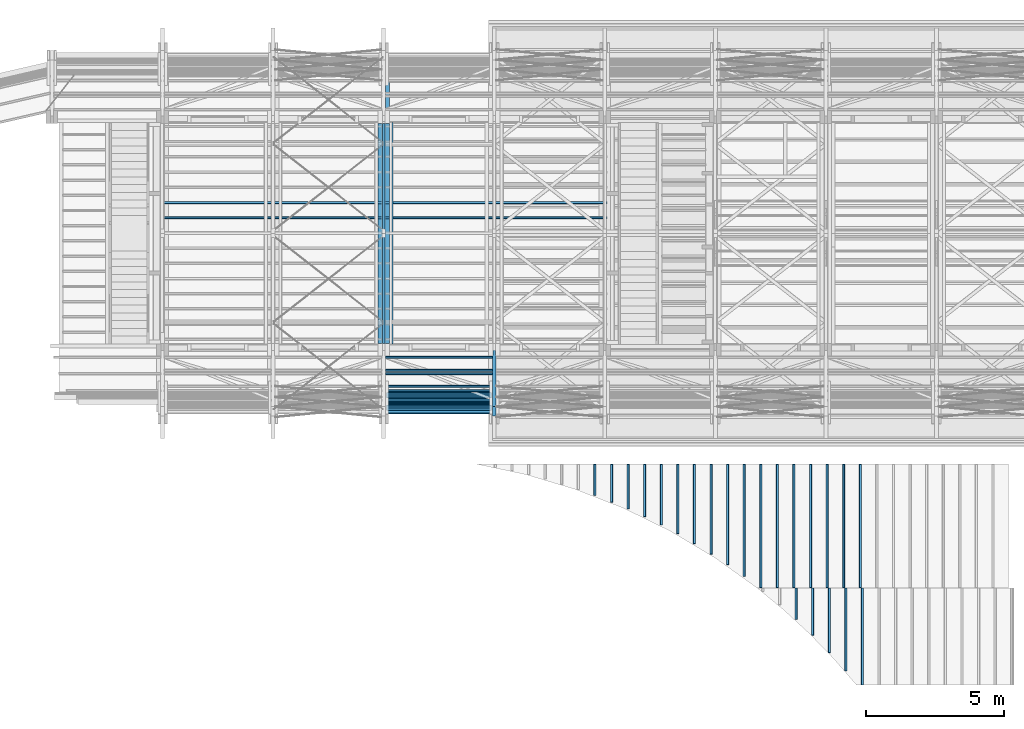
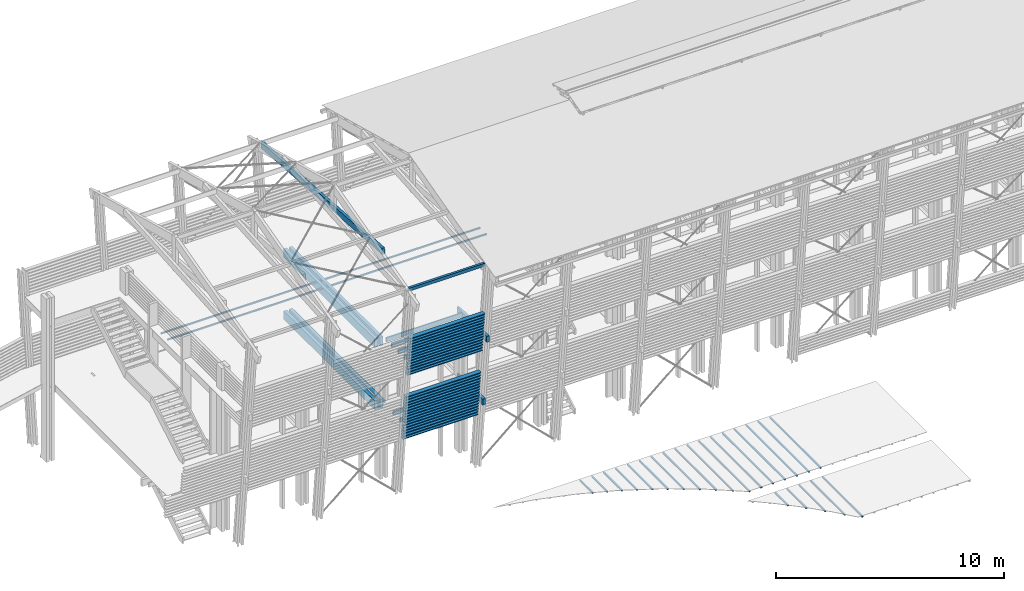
# One storey, part 7 of 48: 70 beams.
"""IFC2X3 building model written with IfcOpenShell, lengths in metres."""

from ifc_helpers import new_model, si_unit, direction, frame, origin_with_axes, place, context, subcontext, project, spatial, faceted_brep, material, element, save


model = new_model("IFC2X3")

# Units and contexts
model_context = context("Model", 3, precision=1e-06, world=origin_with_axes(), true_north=direction((0.0, 1.0, 0.0)))
body_context = subcontext(model_context, "Body", "Model", "MODEL_VIEW")
ifc_project = project(units=[si_unit("LENGTHUNIT", "METRE"), si_unit("AREAUNIT", "SQUARE_METRE"), si_unit("VOLUMEUNIT", "CUBIC_METRE"), si_unit("PLANEANGLEUNIT", "RADIAN")], contexts=[model_context])

# Site, building, storey
site_placement = place(None, origin_with_axes())
site = spatial("IfcSite", under=ifc_project, at=site_placement, CompositionType="ELEMENT")
building_placement = place(site_placement, origin_with_axes())
building = spatial("IfcBuilding", under=site, at=building_placement, Name="Building 1", CompositionType="ELEMENT")
storey_placement = place(building_placement, origin_with_axes())
storey = spatial("IfcBuildingStorey", under=building, at=storey_placement, Name="Storey 1", CompositionType="ELEMENT", Elevation=0.0)

# Beams
ifc_material_1 = material(Name="Moabi")
beam_1_placement = place(storey_placement, frame((37.3927439, -195.0606202, 3.4182623), z_axis=(0.0, 0.9945219, 0.1045285), x_axis=(-1.0, 0.0, 0.0)))
element("IfcBeam", 1, at=beam_1_placement, inside=storey, material=ifc_material_1, Name="garde corp", context=body_context, shape_type="Brep", body=[
    faceted_brep([(3.8047069, 0.02, -0.1), (3.8047069, -0.02, -0.1), (0.0, -0.02, -0.1), (0.0, 0.02, -0.1), (3.8047069, -0.02, 0.1), (0.0, -0.02, 0.1), (3.8047071, 0.02, 0.1), (0.0, 0.02, 0.1)], [[[0, 1, 2, 3]], [[1, 4, 5, 2]], [[4, 6, 7, 5]], [[6, 0, 3, 7]], [[1, 0, 6, 4]], [[7, 3, 2, 5]]]),
])
beam_2_placement = place(storey_placement, frame((37.3927437, -195.6459796, 8.9875849), z_axis=(0.0, 0.9945219, 0.1045285), x_axis=(-1.0, 0.0, 0.0)))
element("IfcBeam", 2, at=beam_2_placement, inside=storey, material=ifc_material_1, Name="garde corp", context=body_context, shape_type="Brep", body=[
    faceted_brep([(3.806, 0.02, -0.1), (3.806, -0.02, -0.1), (0.0, -0.02, -0.1), (0.0, 0.02, -0.1), (3.806, -0.02, 0.1), (0.0, -0.02, 0.1), (3.806, 0.02, 0.1), (0.0, 0.02, 0.1)], [[[0, 1, 2, 3]], [[1, 4, 5, 2]], [[4, 6, 7, 5]], [[6, 0, 3, 7]], [[1, 0, 6, 4]], [[7, 3, 2, 5]]]),
])
ifc_material_2 = material(Name="GL28h")
beam_3_placement = place(storey_placement, frame((50.8127827, -205.5464204, -0.606), z_axis=(-1.0, 0.0, 0.0), x_axis=(0.0, 1.0, 0.0)))
element("IfcBeam", 3, at=beam_3_placement, inside=storey, material=ifc_material_2, Name="carrelet", context=body_context, shape_type="Brep", body=[
    faceted_brep([(3.5, -0.035, -0.035), (3.5, -0.035, 0.035), (0.0, -0.035, 0.035), (0.0, -0.035, -0.035), (3.5, 0.035, 0.035), (0.0, 0.035, 0.035), (3.5, 0.035, -0.035), (0.0, 0.035, -0.035)], [[[0, 1, 2, 3]], [[1, 4, 5, 2]], [[4, 6, 7, 5]], [[6, 0, 3, 7]], [[1, 0, 6, 4]], [[7, 3, 2, 5]]]),
])
beam_4_placement = place(storey_placement, frame((25.4197437, -188.0946515, 7.494), z_axis=(0.0, 0.0, 1.0), x_axis=(1.0, 0.0, 0.0)))
element("IfcBeam", 4, at=beam_4_placement, inside=storey, material=ifc_material_2, Name="Poutre - Bois de construction", context=body_context, shape_type="Brep", body=[
    faceted_brep([(16.14, -0.035, -0.035), (16.14, -0.035, 0.035), (0.0, -0.035, 0.035), (0.0, -0.035, -0.035), (16.14, 0.035, 0.035), (0.0, 0.035, 0.035), (16.14, 0.035, -0.035), (0.0, 0.035, -0.035)], [[[0, 1, 2, 3]], [[1, 4, 5, 2]], [[4, 6, 7, 5]], [[6, 0, 3, 7]], [[1, 0, 6, 4]], [[7, 3, 2, 5]]]),
])
beam_5_placement = place(storey_placement, frame((44.7347007, -200.4366677, -0.106), z_axis=(-1.0, 0.0, 0.0), x_axis=(0.0, 1.0, 0.0)))
element("IfcBeam", 5, at=beam_5_placement, inside=storey, material=ifc_material_2, Name="carrelet", context=body_context, shape_type="Brep", body=[
    faceted_brep([(2.8692473, -0.035, -0.035), (2.8692473, -0.035, 0.035), (0.0, -0.035, 0.035), (0.0, -0.035, -0.035), (2.8692473, 0.035, 0.035), (0.0, 0.035, 0.035), (2.8692473, 0.035, -0.035), (0.0, 0.035, -0.035)], [[[0, 1, 2, 3]], [[1, 4, 5, 2]], [[4, 6, 7, 5]], [[6, 0, 3, 7]], [[1, 0, 6, 4]], [[7, 3, 2, 5]]]),
])
beam_6_placement = place(storey_placement, frame((44.1347007, -200.073994, -0.106), z_axis=(-1.0, 0.0, 0.0), x_axis=(0.0, 1.0, 0.0)))
element("IfcBeam", 6, at=beam_6_placement, inside=storey, material=ifc_material_2, Name="carrelet", context=body_context, shape_type="Brep", body=[
    faceted_brep([(2.5065736, -0.035, -0.035), (2.5065736, -0.035, 0.035), (0.0, -0.035, 0.035), (0.0, -0.035, -0.035), (2.5065736, 0.035, 0.035), (0.0, 0.035, 0.035), (2.5065736, 0.035, -0.035), (0.0, 0.035, -0.035)], [[[0, 1, 2, 3]], [[1, 4, 5, 2]], [[4, 6, 7, 5]], [[6, 0, 3, 7]], [[1, 0, 6, 4]], [[7, 3, 2, 5]]]),
])
beam_7_placement = place(storey_placement, frame((49.5347007, -202.0254204, -0.106), z_axis=(-1.0, 0.0, 0.0), x_axis=(0.0, 1.0, 0.0)))
element("IfcBeam", 7, at=beam_7_placement, inside=storey, material=ifc_material_2, Name="carrelet", context=body_context, shape_type="Brep", body=[
    faceted_brep([(4.458, -0.035, -0.035), (4.458, -0.035, 0.035), (0.0, -0.035, 0.035), (0.0, -0.035, -0.035), (4.458, 0.035, 0.035), (0.0, 0.035, 0.035), (4.458, 0.035, -0.035), (0.0, 0.035, -0.035)], [[[0, 1, 2, 3]], [[1, 4, 5, 2]], [[4, 6, 7, 5]], [[6, 0, 3, 7]], [[1, 0, 6, 4]], [[7, 3, 2, 5]]]),
])
beam_8_placement = place(storey_placement, frame((33.5597437, -193.6846515, 7.699), z_axis=(0.0, 0.0, 1.0), x_axis=(1.0, 0.0, 0.0)))
element("IfcBeam", 8, at=beam_8_placement, inside=storey, material=ifc_material_2, Name="Solive", context=body_context, shape_type="Brep", body=[
    faceted_brep([(3.86, 0.035, 0.11), (3.86, 0.035, -0.11), (0.0, 0.035, -0.11), (0.0, 0.035, 0.11), (3.86, -0.035, -0.11), (0.0, -0.035, -0.11), (3.86, -0.035, 0.11), (0.0, -0.035, 0.11)], [[[0, 1, 2, 3]], [[1, 4, 5, 2]], [[4, 6, 7, 5]], [[6, 0, 3, 7]], [[1, 0, 6, 4]], [[7, 3, 2, 5]]]),
])
beam_9_placement = place(storey_placement, frame((37.3927439, -195.0773447, 3.5773858), z_axis=(0.0, 0.9945219, 0.1045285), x_axis=(-1.0, 0.0, 0.0)))
element("IfcBeam", 9, at=beam_9_placement, inside=storey, material=ifc_material_1, Name="garde corp", context=body_context, shape_type="Brep", body=[
    faceted_brep([(3.8047071, 0.02, -0.1), (3.8047071, -0.02, -0.1), (0.0, -0.02, -0.1), (0.0, 0.02, -0.1), (3.8047071, -0.02, 0.1), (0.0, -0.02, 0.1), (3.8047071, 0.02, 0.1), (0.0, 0.02, 0.1)], [[[0, 1, 2, 3]], [[1, 4, 5, 2]], [[4, 6, 7, 5]], [[6, 0, 3, 7]], [[1, 0, 6, 4]], [[7, 3, 2, 5]]]),
])
beam_10_placement = place(storey_placement, frame((42.3347007, -199.1756791, -0.106), z_axis=(-1.0, 0.0, 0.0), x_axis=(0.0, 1.0, 0.0)))
element("IfcBeam", 10, at=beam_10_placement, inside=storey, material=ifc_material_2, Name="carrelet", context=body_context, shape_type="Brep", body=[
    faceted_brep([(1.6082587, -0.035, -0.035), (1.6082587, -0.035, 0.035), (0.0, -0.035, 0.035), (0.0, -0.035, -0.035), (1.6082587, 0.035, 0.035), (0.0, 0.035, 0.035), (1.6082587, 0.035, -0.035), (0.0, 0.035, -0.035)], [[[0, 1, 2, 3]], [[1, 4, 5, 2]], [[4, 6, 7, 5]], [[6, 0, 3, 7]], [[1, 0, 6, 4]], [[7, 3, 2, 5]]]),
])
beam_11_placement = place(storey_placement, frame((41.1347007, -198.6902542, -0.106), z_axis=(-1.0, 0.0, 0.0), x_axis=(0.0, 1.0, 0.0)))
element("IfcBeam", 11, at=beam_11_placement, inside=storey, material=ifc_material_2, Name="carrelet", context=body_context, shape_type="Brep", body=[
    faceted_brep([(1.1228339, -0.035, -0.035), (1.1228339, -0.035, 0.035), (0.0, -0.035, 0.035), (0.0, -0.035, -0.035), (1.1228339, 0.035, 0.035), (0.0, 0.035, 0.035), (1.1228339, 0.035, -0.035), (0.0, 0.035, -0.035)], [[[0, 1, 2, 3]], [[1, 4, 5, 2]], [[4, 6, 7, 5]], [[6, 0, 3, 7]], [[1, 0, 6, 4]], [[7, 3, 2, 5]]]),
])
for number, where, z_axis, x_axis in (
    (12, (47.7347007, -202.0254204, -0.106), (-1.0, 0.0, 0.0), (0.0, 1.0, 0.0)),
    (13, (48.9347007, -202.0254204, -0.106), (-1.0, 0.0, 0.0), (0.0, 1.0, 0.0)),
    (14, (48.3347007, -202.0254204, -0.106), (-1.0, 0.0, 0.0), (0.0, 1.0, 0.0)),
    (15, (50.7347007, -202.0254204, -0.106), (-1.0, 0.0, 0.0), (0.0, 1.0, 0.0)),
    (16, (50.1347007, -202.0254204, -0.106), (-1.0, 0.0, 0.0), (0.0, 1.0, 0.0)),
):
    element("IfcBeam", number, at=place(storey_placement, frame(where, z_axis=z_axis, x_axis=x_axis)), inside=storey, material=ifc_material_2, Name="carrelet", context=body_context, shape_type="Brep", body=[
        faceted_brep([(4.458, -0.035, -0.035), (4.458, -0.035, 0.035), (0.0, -0.035, 0.035), (0.0, -0.035, -0.035), (4.458, 0.035, 0.035), (0.0, 0.035, 0.035), (4.458, 0.035, -0.035), (0.0, 0.035, -0.035)], [[[0, 1, 2, 3]], [[1, 4, 5, 2]], [[4, 6, 7, 5]], [[6, 0, 3, 7]], [[1, 0, 6, 4]], [[7, 3, 2, 5]]]),
    ])
beam_12_placement = place(storey_placement, frame((42.9347007, -199.4546588, -0.106), z_axis=(-1.0, 0.0, 0.0), x_axis=(0.0, 1.0, 0.0)))
element("IfcBeam", 17, at=beam_12_placement, inside=storey, material=ifc_material_2, Name="carrelet", context=body_context, shape_type="Brep", body=[
    faceted_brep([(1.8872385, -0.035, -0.035), (1.8872385, -0.035, 0.035), (0.0, -0.035, 0.035), (0.0, -0.035, -0.035), (1.8872385, 0.035, 0.035), (0.0, 0.035, 0.035), (1.8872385, 0.035, -0.035), (0.0, 0.035, -0.035)], [[[0, 1, 2, 3]], [[1, 4, 5, 2]], [[4, 6, 7, 5]], [[6, 0, 3, 7]], [[1, 0, 6, 4]], [[7, 3, 2, 5]]]),
])
beam_13_placement = place(storey_placement, frame((46.5347007, -201.619542, -0.106), z_axis=(-1.0, 0.0, 0.0), x_axis=(0.0, 1.0, 0.0)))
element("IfcBeam", 18, at=beam_13_placement, inside=storey, material=ifc_material_2, Name="carrelet", context=body_context, shape_type="Brep", body=[
    faceted_brep([(4.0521216, -0.035, -0.035), (4.0521216, -0.035, 0.035), (0.0, -0.035, 0.035), (0.0, -0.035, -0.035), (4.0521216, 0.035, 0.035), (0.0, 0.035, 0.035), (4.0521216, 0.035, -0.035), (0.0, 0.035, -0.035)], [[[0, 1, 2, 3]], [[1, 4, 5, 2]], [[4, 6, 7, 5]], [[6, 0, 3, 7]], [[1, 0, 6, 4]], [[7, 3, 2, 5]]]),
])
beam_14_placement = place(storey_placement, frame((45.3347007, -200.8105006, -0.106), z_axis=(-1.0, 0.0, 0.0), x_axis=(0.0, 1.0, 0.0)))
element("IfcBeam", 19, at=beam_14_placement, inside=storey, material=ifc_material_2, Name="carrelet", context=body_context, shape_type="Brep", body=[
    faceted_brep([(3.2430802, -0.035, -0.035), (3.2430802, -0.035, 0.035), (0.0, -0.035, 0.035), (0.0, -0.035, -0.035), (3.2430802, 0.035, 0.035), (0.0, 0.035, 0.035), (3.2430802, 0.035, -0.035), (0.0, 0.035, -0.035)], [[[0, 1, 2, 3]], [[1, 4, 5, 2]], [[4, 6, 7, 5]], [[6, 0, 3, 7]], [[1, 0, 6, 4]], [[7, 3, 2, 5]]]),
])
beam_15_placement = place(storey_placement, frame((47.1347007, -202.0254204, -0.106), z_axis=(-1.0, 0.0, 0.0), x_axis=(0.0, 1.0, 0.0)))
element("IfcBeam", 20, at=beam_15_placement, inside=storey, material=ifc_material_2, Name="carrelet", context=body_context, shape_type="Brep", body=[
    faceted_brep([(4.458, -0.035, -0.035), (4.458, -0.035, 0.035), (0.0, -0.035, 0.035), (0.0, -0.035, -0.035), (4.458, 0.035, 0.035), (0.0, 0.035, 0.035), (4.458, 0.035, -0.035), (0.0, 0.035, -0.035)], [[[0, 1, 2, 3]], [[1, 4, 5, 2]], [[4, 6, 7, 5]], [[6, 0, 3, 7]], [[1, 0, 6, 4]], [[7, 3, 2, 5]]]),
])
beam_16_placement = place(storey_placement, frame((33.5597437, -194.1646515, 7.699), z_axis=(0.0, 0.0, 1.0), x_axis=(1.0, 0.0, 0.0)))
element("IfcBeam", 21, at=beam_16_placement, inside=storey, material=ifc_material_2, Name="Solive", context=body_context, shape_type="Brep", body=[
    faceted_brep([(3.86, 0.035, 0.11), (3.86, 0.035, -0.11), (0.0, 0.035, -0.11), (0.0, 0.035, 0.11), (3.86, -0.035, -0.11), (0.0, -0.035, -0.11), (3.86, -0.035, 0.11), (0.0, -0.035, 0.11)], [[[0, 1, 2, 3]], [[1, 4, 5, 2]], [[4, 6, 7, 5]], [[6, 0, 3, 7]], [[1, 0, 6, 4]], [[7, 3, 2, 5]]]),
])
beam_17_placement = place(storey_placement, frame((49.0127827, -203.7475608, -0.606), z_axis=(-1.0, 0.0, 0.0), x_axis=(0.0, 1.0, 0.0)))
element("IfcBeam", 22, at=beam_17_placement, inside=storey, material=ifc_material_2, Name="carrelet", context=body_context, shape_type="Brep", body=[
    faceted_brep([(1.7011404, -0.035, -0.035), (1.7011404, -0.035, 0.035), (0.0, -0.035, 0.035), (0.0, -0.035, -0.035), (1.7011404, 0.035, 0.035), (0.0, 0.035, 0.035), (1.7011404, 0.035, -0.035), (0.0, 0.035, -0.035)], [[[0, 1, 2, 3]], [[1, 4, 5, 2]], [[4, 6, 7, 5]], [[6, 0, 3, 7]], [[1, 0, 6, 4]], [[7, 3, 2, 5]]]),
])
beam_18_placement = place(storey_placement, frame((45.9347007, -201.1899131, -0.106), z_axis=(-1.0, 0.0, 0.0), x_axis=(0.0, 1.0, 0.0)))
element("IfcBeam", 23, at=beam_18_placement, inside=storey, material=ifc_material_2, Name="carrelet", context=body_context, shape_type="Brep", body=[
    faceted_brep([(3.6224927, -0.035, -0.035), (3.6224927, -0.035, 0.035), (0.0, -0.035, 0.035), (0.0, -0.035, -0.035), (3.6224927, 0.035, 0.035), (0.0, 0.035, 0.035), (3.6224927, 0.035, -0.035), (0.0, 0.035, -0.035)], [[[0, 1, 2, 3]], [[1, 4, 5, 2]], [[4, 6, 7, 5]], [[6, 0, 3, 7]], [[1, 0, 6, 4]], [[7, 3, 2, 5]]]),
])
beam_19_placement = place(storey_placement, frame((48.4127827, -203.1735512, -0.606), z_axis=(-1.0, 0.0, 0.0), x_axis=(0.0, 1.0, 0.0)))
element("IfcBeam", 24, at=beam_19_placement, inside=storey, material=ifc_material_2, Name="carrelet", context=body_context, shape_type="Brep", body=[
    faceted_brep([(1.1271308, -0.035, -0.035), (1.1271308, -0.035, 0.035), (0.0, -0.035, 0.035), (0.0, -0.035, -0.035), (1.1271308, 0.035, 0.035), (0.0, 0.035, 0.035), (1.1271308, 0.035, -0.035), (0.0, 0.035, -0.035)], [[[0, 1, 2, 3]], [[1, 4, 5, 2]], [[4, 6, 7, 5]], [[6, 0, 3, 7]], [[1, 0, 6, 4]], [[7, 3, 2, 5]]]),
])
beam_20_placement = place(storey_placement, frame((43.5347007, -199.755957, -0.106), z_axis=(-1.0, 0.0, 0.0), x_axis=(0.0, 1.0, 0.0)))
element("IfcBeam", 25, at=beam_20_placement, inside=storey, material=ifc_material_2, Name="carrelet", context=body_context, shape_type="Brep", body=[
    faceted_brep([(2.1885367, -0.035, -0.035), (2.1885367, -0.035, 0.035), (0.0, -0.035, 0.035), (0.0, -0.035, -0.035), (2.1885367, 0.035, 0.035), (0.0, 0.035, 0.035), (2.1885367, 0.035, -0.035), (0.0, 0.035, -0.035)], [[[0, 1, 2, 3]], [[1, 4, 5, 2]], [[4, 6, 7, 5]], [[6, 0, 3, 7]], [[1, 0, 6, 4]], [[7, 3, 2, 5]]]),
])
beam_21_placement = place(storey_placement, frame((50.2127827, -205.0352656, -0.606), z_axis=(-1.0, 0.0, 0.0), x_axis=(0.0, 1.0, 0.0)))
element("IfcBeam", 26, at=beam_21_placement, inside=storey, material=ifc_material_2, Name="carrelet", context=body_context, shape_type="Brep", body=[
    faceted_brep([(2.9888452, -0.035, -0.035), (2.9888452, -0.035, 0.035), (0.0, -0.035, 0.035), (0.0, -0.035, -0.035), (2.9888452, 0.035, 0.035), (0.0, 0.035, 0.035), (2.9888452, 0.035, -0.035), (0.0, 0.035, -0.035)], [[[0, 1, 2, 3]], [[1, 4, 5, 2]], [[4, 6, 7, 5]], [[6, 0, 3, 7]], [[1, 0, 6, 4]], [[7, 3, 2, 5]]]),
])
beam_22_placement = place(storey_placement, frame((49.6127827, -204.3749041, -0.606), z_axis=(-1.0, 0.0, 0.0), x_axis=(0.0, 1.0, 0.0)))
element("IfcBeam", 27, at=beam_22_placement, inside=storey, material=ifc_material_2, Name="carrelet", context=body_context, shape_type="Brep", body=[
    faceted_brep([(2.3284838, -0.035, -0.035), (2.3284838, -0.035, 0.035), (0.0, -0.035, 0.035), (0.0, -0.035, -0.035), (2.3284838, 0.035, 0.035), (0.0, 0.035, 0.035), (2.3284838, 0.035, -0.035), (0.0, 0.035, -0.035)], [[[0, 1, 2, 3]], [[1, 4, 5, 2]], [[4, 6, 7, 5]], [[6, 0, 3, 7]], [[1, 0, 6, 4]], [[7, 3, 2, 5]]]),
])
beam_23_placement = place(storey_placement, frame((41.7347007, -198.9301768, -0.106), z_axis=(-1.0, 0.0, 0.0), x_axis=(0.0, 1.0, 0.0)))
element("IfcBeam", 28, at=beam_23_placement, inside=storey, material=ifc_material_2, Name="carrelet", context=body_context, shape_type="Brep", body=[
    faceted_brep([(1.3627565, -0.035, -0.035), (1.3627565, -0.035, 0.035), (0.0, -0.035, 0.035), (0.0, -0.035, -0.035), (1.3627565, 0.035, 0.035), (0.0, 0.035, 0.035), (1.3627565, 0.035, -0.035), (0.0, 0.035, -0.035)], [[[0, 1, 2, 3]], [[1, 4, 5, 2]], [[4, 6, 7, 5]], [[6, 0, 3, 7]], [[1, 0, 6, 4]], [[7, 3, 2, 5]]]),
])
beam_24_placement = place(storey_placement, frame((37.3927441, -195.5121831, 7.7145968), z_axis=(0.0, 0.9945219, 0.1045285), x_axis=(-1.0, 0.0, 0.0)))
element("IfcBeam", 29, at=beam_24_placement, inside=storey, material=ifc_material_1, Name="garde corp", context=body_context, shape_type="Brep", body=[
    faceted_brep([(3.806, 0.02, -0.1), (3.806, -0.02, -0.1), (0.0, -0.02, -0.1), (0.0, 0.02, -0.1), (3.806, -0.02, 0.1), (0.0, -0.02, 0.1), (3.806, 0.02, 0.1), (0.0, 0.02, 0.1)], [[[0, 1, 2, 3]], [[1, 4, 5, 2]], [[4, 6, 7, 5]], [[6, 0, 3, 7]], [[1, 0, 6, 4]], [[7, 3, 2, 5]]]),
])
beam_25_placement = place(storey_placement, frame((25.4197437, -188.6446515, 7.494), z_axis=(0.0, 0.0, 1.0), x_axis=(1.0, 0.0, 0.0)))
element("IfcBeam", 30, at=beam_25_placement, inside=storey, material=ifc_material_2, Name="Poutre - Bois de construction", context=body_context, shape_type="Brep", body=[
    faceted_brep([(16.14, -0.035, -0.035), (16.14, -0.035, 0.035), (0.0, -0.035, 0.035), (0.0, -0.035, -0.035), (16.14, 0.035, 0.035), (0.0, 0.035, 0.035), (16.14, 0.035, -0.035), (0.0, 0.035, -0.035)], [[[0, 1, 2, 3]], [[1, 4, 5, 2]], [[4, 6, 7, 5]], [[6, 0, 3, 7]], [[1, 0, 6, 4]], [[7, 3, 2, 5]]]),
])
beam_26_placement = place(storey_placement, frame((37.3927439, -195.1107938, 3.8956328), z_axis=(0.0, 0.9945219, 0.1045285), x_axis=(-1.0, 0.0, 0.0)))
element("IfcBeam", 31, at=beam_26_placement, inside=storey, material=ifc_material_1, Name="garde corp", context=body_context, shape_type="Brep", body=[
    faceted_brep([(3.8047069, 0.02, -0.1), (3.8047071, -0.02, -0.1), (0.0, -0.02, -0.1), (0.0, 0.02, -0.1), (3.8047071, -0.02, 0.1), (0.0, -0.02, 0.1), (3.8047071, 0.02, 0.1), (0.0, 0.02, 0.1)], [[[0, 1, 2, 3]], [[1, 4, 5, 2]], [[4, 6, 7, 5]], [[6, 0, 3, 7]], [[1, 0, 6, 4]], [[7, 3, 2, 5]]]),
])
beam_27_placement = place(storey_placement, frame((33.6297437, -182.7509358, 11.4619485), z_axis=(0.0, 0.070184, 0.9975341), x_axis=(0.0, -0.9975341, 0.070184)))
element("IfcBeam", 32, at=beam_27_placement, inside=storey, material=ifc_material_2, Name="Entrait", context=body_context, shape_type="Brep", body=[
    faceted_brep([(0.0, 0.07, 0.16), (0.0110373, 0.07, -0.16), (0.0110373, -0.07, -0.16), (0.0, -0.07, 0.16), (10.6243711, 0.07, -0.16), (10.6243711, -0.07, -0.16), (10.6243711, 0.07, 0.16), (10.6243711, -0.07, 0.16)], [[[0, 1, 2, 3]], [[2, 1, 4, 5]], [[1, 0, 6, 4]], [[5, 4, 6, 7]], [[3, 2, 5, 7]], [[0, 3, 7, 6]]]),
])
beam_28_placement = place(storey_placement, frame((37.3927439, -195.2111412, 4.8503738), z_axis=(0.0, 0.9945219, 0.1045285), x_axis=(-1.0, 0.0, 0.0)))
element("IfcBeam", 33, at=beam_28_placement, inside=storey, material=ifc_material_1, Name="garde corp", context=body_context, shape_type="Brep", body=[
    faceted_brep([(3.8048055, 0.02, -0.1), (3.8048055, -0.02, -0.1), (0.0, -0.02, -0.1), (0.0, 0.02, -0.1), (3.8048055, -0.02, 0.1), (0.0, -0.02, 0.1), (3.8048055, 0.02, 0.1), (0.0, 0.02, 0.1)], [[[0, 1, 2, 3]], [[1, 4, 5, 2]], [[4, 6, 7, 5]], [[6, 0, 3, 7]], [[1, 0, 6, 4]], [[7, 3, 2, 5]]]),
])
for number, where, z_axis, x_axis, name in (
    (34, (37.3927437, -195.5456322, 8.0328439), (0.0, 0.9945219, 0.1045285), (-1.0, 0.0, 0.0), "garde corp"),
    (35, (37.3927441, -195.629255, 8.8284614), (0.0, 0.9945219, 0.1045285), (-1.0, 0.0, 0.0), "garde corp"),
    (36, (37.3927441, -195.4954586, 7.5554733), (0.0, 0.9945219, 0.1045285), (-1.0, 0.0, 0.0), "garde corp"),
    (37, (37.3927441, -195.4452849, 7.0781028), (0.0, 0.9945219, 0.1045285), (-1.0, 0.0, 0.0), "garde corp"),
    (38, (37.3927441, -195.5623568, 8.1919674), (0.0, 0.9945219, 0.1045285), (-1.0, 0.0, 0.0), "garde corp"),
    (39, (37.3927441, -195.478734, 7.3963498), (0.0, 0.9945219, 0.1045285), (-1.0, 0.0, 0.0), "garde corp"),
    (40, (37.3927437, -195.6125305, 8.6693379), (0.0, 0.9945219, 0.1045285), (-1.0, 0.0, 0.0), "garde corp"),
):
    element("IfcBeam", number, at=place(storey_placement, frame(where, z_axis=z_axis, x_axis=x_axis)), inside=storey, material=ifc_material_1, Name=name, context=body_context, shape_type="Brep", body=[
        faceted_brep([(3.806, 0.02, -0.1), (3.806, -0.02, -0.1), (0.0, -0.02, -0.1), (0.0, 0.02, -0.1), (3.806, -0.02, 0.1), (0.0, -0.02, 0.1), (3.806, 0.02, 0.1), (0.0, 0.02, 0.1)], [[[0, 1, 2, 3]], [[1, 4, 5, 2]], [[4, 6, 7, 5]], [[6, 0, 3, 7]], [[1, 0, 6, 4]], [[7, 3, 2, 5]]]),
    ])
for number, where, z_axis, x_axis, name in (
    (41, (37.3927439, -195.177692, 4.5321268), (0.0, 0.9945219, 0.1045285), (-1.0, 0.0, 0.0), "garde corp"),
    (42, (37.3927439, -195.2278657, 5.0094973), (0.0, 0.9945219, 0.1045285), (-1.0, 0.0, 0.0), "garde corp"),
):
    element("IfcBeam", number, at=place(storey_placement, frame(where, z_axis=z_axis, x_axis=x_axis)), inside=storey, material=ifc_material_1, Name=name, context=body_context, shape_type="Brep", body=[
        faceted_brep([(3.8047069, 0.02, -0.1), (3.8047071, -0.02, -0.1), (0.0, -0.02, -0.1), (0.0, 0.02, -0.1), (3.8047069, -0.02, 0.1), (0.0, -0.02, 0.1), (3.8047071, 0.02, 0.1), (0.0, 0.02, 0.1)], [[[0, 1, 2, 3]], [[1, 4, 5, 2]], [[4, 6, 7, 5]], [[6, 0, 3, 7]], [[1, 0, 6, 4]], [[7, 3, 2, 5]]]),
    ])
beam_29_placement = place(storey_placement, frame((37.3927441, -195.5958059, 8.5102144), z_axis=(0.0, 0.9945219, 0.1045285), x_axis=(-1.0, 0.0, 0.0)))
element("IfcBeam", 43, at=beam_29_placement, inside=storey, material=ifc_material_1, Name="garde corp", context=body_context, shape_type="Brep", body=[
    faceted_brep([(3.806, 0.02, -0.1), (3.806, -0.02, -0.1), (0.0, -0.02, -0.1), (0.0, 0.02, -0.1), (3.806, -0.02, 0.1), (0.0, -0.02, 0.1), (3.806, 0.02, 0.1), (0.0, 0.02, 0.1)], [[[0, 1, 2, 3]], [[1, 4, 5, 2]], [[4, 6, 7, 5]], [[6, 0, 3, 7]], [[1, 0, 6, 4]], [[7, 3, 2, 5]]]),
])
beam_30_placement = place(storey_placement, frame((37.3927439, -195.1609675, 4.3730033), z_axis=(0.0, 0.9945219, 0.1045285), x_axis=(-1.0, 0.0, 0.0)))
element("IfcBeam", 44, at=beam_30_placement, inside=storey, material=ifc_material_1, Name="garde corp", context=body_context, shape_type="Brep", body=[
    faceted_brep([(3.8048051, 0.02, -0.1), (3.8048051, -0.02, -0.1), (0.0, -0.02, -0.1), (0.0, 0.02, -0.1), (3.8048051, -0.02, 0.1), (0.0, -0.02, 0.1), (3.8048051, 0.02, 0.1), (0.0, 0.02, 0.1)], [[[0, 1, 2, 3]], [[1, 4, 5, 2]], [[4, 6, 7, 5]], [[6, 0, 3, 7]], [[1, 0, 6, 4]], [[7, 3, 2, 5]]]),
])
beam_31_placement = place(storey_placement, frame((33.5597437, -194.2816702, 4.139), z_axis=(0.0, 0.0, 1.0), x_axis=(1.0, 0.0, 0.0)))
element("IfcBeam", 45, at=beam_31_placement, inside=storey, material=ifc_material_2, Name="Solive", context=body_context, shape_type="Brep", body=[
    faceted_brep([(3.86, 0.035, 0.11), (3.86, 0.035, -0.11), (0.0, 0.035, -0.11), (0.0, 0.035, 0.11), (3.86, -0.035, -0.11), (0.0, -0.035, -0.11), (3.86, -0.035, 0.11), (0.0, -0.035, 0.11)], [[[0, 1, 2, 3]], [[1, 4, 5, 2]], [[4, 6, 7, 5]], [[6, 0, 3, 7]], [[1, 0, 6, 4]], [[7, 3, 2, 5]]]),
])
for number, where, z_axis, x_axis, name in (
    (46, (37.3927441, -195.4285604, 6.9189793), (0.0, 0.9945219, 0.1045285), (-1.0, 0.0, 0.0), "garde corp"),
    (47, (37.3927441, -195.5790813, 8.3510909), (0.0, 0.9945219, 0.1045285), (-1.0, 0.0, 0.0), "garde corp"),
):
    element("IfcBeam", number, at=place(storey_placement, frame(where, z_axis=z_axis, x_axis=x_axis)), inside=storey, material=ifc_material_1, Name=name, context=body_context, shape_type="Brep", body=[
        faceted_brep([(3.806, 0.02, -0.1), (3.806, -0.02, -0.1), (0.0, -0.02, -0.1), (0.0, 0.02, -0.1), (3.806, -0.02, 0.1), (0.0, -0.02, 0.1), (3.806, 0.02, 0.1), (0.0, 0.02, 0.1)], [[[0, 1, 2, 3]], [[1, 4, 5, 2]], [[4, 6, 7, 5]], [[6, 0, 3, 7]], [[1, 0, 6, 4]], [[7, 3, 2, 5]]]),
    ])
beam_32_placement = place(storey_placement, frame((37.3927439, -195.1442429, 4.2138798), z_axis=(0.0, 0.9945219, 0.1045285), x_axis=(-1.0, 0.0, 0.0)))
element("IfcBeam", 48, at=beam_32_placement, inside=storey, material=ifc_material_1, Name="garde corp", context=body_context, shape_type="Brep", body=[
    faceted_brep([(3.8048051, 0.02, -0.1), (3.8048051, -0.02, -0.1), (0.0, -0.02, -0.1), (0.0, 0.02, -0.1), (3.8048051, -0.02, 0.1), (0.0, -0.02, 0.1), (3.8048051, 0.02, 0.1), (0.0, 0.02, 0.1)], [[[0, 1, 2, 3]], [[1, 4, 5, 2]], [[4, 6, 7, 5]], [[6, 0, 3, 7]], [[1, 0, 6, 4]], [[7, 3, 2, 5]]]),
])
beam_33_placement = place(storey_placement, frame((37.3927439, -195.2613148, 5.3277443), z_axis=(0.0, 0.9945219, 0.1045285), x_axis=(-1.0, 0.0, 0.0)))
element("IfcBeam", 49, at=beam_33_placement, inside=storey, material=ifc_material_1, Name="garde corp", context=body_context, shape_type="Brep", body=[
    faceted_brep([(3.8048055, 0.02, -0.1), (3.8048055, -0.02, -0.1), (0.0, -0.02, -0.1), (0.0, 0.02, -0.1), (3.8048055, -0.02, 0.1), (0.0, -0.02, 0.1), (3.8048055, 0.02, 0.1), (0.0, 0.02, 0.1)], [[[0, 1, 2, 3]], [[1, 4, 5, 2]], [[4, 6, 7, 5]], [[6, 0, 3, 7]], [[1, 0, 6, 4]], [[7, 3, 2, 5]]]),
])
for number, where, z_axis, x_axis, name in (
    (50, (37.3927439, -195.0438956, 3.2591388), (0.0, 0.9945219, 0.1045285), (-1.0, 0.0, 0.0), "garde corp"),
    (51, (37.3927439, -195.1275184, 4.0547563), (0.0, 0.9945219, 0.1045285), (-1.0, 0.0, 0.0), "garde corp"),
):
    element("IfcBeam", number, at=place(storey_placement, frame(where, z_axis=z_axis, x_axis=x_axis)), inside=storey, material=ifc_material_1, Name=name, context=body_context, shape_type="Brep", body=[
        faceted_brep([(3.8048051, 0.02, -0.1), (3.8048051, -0.02, -0.1), (0.0, -0.02, -0.1), (0.0, 0.02, -0.1), (3.8048051, -0.02, 0.1), (0.0, -0.02, 0.1), (3.8048051, 0.02, 0.1), (0.0, 0.02, 0.1)], [[[0, 1, 2, 3]], [[1, 4, 5, 2]], [[4, 6, 7, 5]], [[6, 0, 3, 7]], [[1, 0, 6, 4]], [[7, 3, 2, 5]]]),
    ])
beam_34_placement = place(storey_placement, frame((37.3927439, -195.2780394, 5.4868678), z_axis=(0.0, 0.9945219, 0.1045285), x_axis=(-1.0, 0.0, 0.0)))
element("IfcBeam", 52, at=beam_34_placement, inside=storey, material=ifc_material_1, Name="garde corp", context=body_context, shape_type="Brep", body=[
    faceted_brep([(3.8047069, 0.02, -0.1), (3.8047069, -0.02, -0.1), (0.0, -0.02, -0.1), (0.0, 0.02, -0.1), (3.8047069, -0.02, 0.1), (0.0, -0.02, 0.1), (3.8047071, 0.02, 0.1), (0.0, 0.02, 0.1)], [[[0, 1, 2, 3]], [[1, 4, 5, 2]], [[4, 6, 7, 5]], [[6, 0, 3, 7]], [[1, 0, 6, 4]], [[7, 3, 2, 5]]]),
])
beam_35_placement = place(storey_placement, frame((37.3927439, -195.2947639, 5.6459913), z_axis=(0.0, 0.9945219, 0.1045285), x_axis=(-1.0, 0.0, 0.0)))
element("IfcBeam", 53, at=beam_35_placement, inside=storey, material=ifc_material_1, Name="garde corp", context=body_context, shape_type="Brep", body=[
    faceted_brep([(3.8048055, 0.02, -0.1), (3.8048055, -0.02, -0.1), (0.0, -0.02, -0.1), (0.0, 0.02, -0.1), (3.8048055, -0.02, 0.1), (0.0, -0.02, 0.1), (3.8048055, 0.02, 0.1), (0.0, 0.02, 0.1)], [[[0, 1, 2, 3]], [[1, 4, 5, 2]], [[4, 6, 7, 5]], [[6, 0, 3, 7]], [[1, 0, 6, 4]], [[7, 3, 2, 5]]]),
])
beam_36_placement = place(storey_placement, frame((37.3927439, -195.1944166, 4.6912503), z_axis=(0.0, 0.9945219, 0.1045285), x_axis=(-1.0, 0.0, 0.0)))
element("IfcBeam", 54, at=beam_36_placement, inside=storey, material=ifc_material_1, Name="garde corp", context=body_context, shape_type="Brep", body=[
    faceted_brep([(3.8047069, 0.02, -0.1), (3.8047071, -0.02, -0.1), (0.0, -0.02, -0.1), (0.0, 0.02, -0.1), (3.8047071, -0.02, 0.1), (0.0, -0.02, 0.1), (3.8047071, 0.02, 0.1), (0.0, 0.02, 0.1)], [[[0, 1, 2, 3]], [[1, 4, 5, 2]], [[4, 6, 7, 5]], [[6, 0, 3, 7]], [[1, 0, 6, 4]], [[7, 3, 2, 5]]]),
])
beam_37_placement = place(storey_placement, frame((37.3927439, -195.2445903, 5.1686208), z_axis=(0.0, 0.9945219, 0.1045285), x_axis=(-1.0, 0.0, 0.0)))
element("IfcBeam", 55, at=beam_37_placement, inside=storey, material=ifc_material_1, Name="garde corp", context=body_context, shape_type="Brep", body=[
    faceted_brep([(3.8048055, 0.02, -0.1), (3.8048055, -0.02, -0.1), (0.0, -0.02, -0.1), (0.0, 0.02, -0.1), (3.8048055, -0.02, 0.1), (0.0, -0.02, 0.1), (3.8048055, 0.02, 0.1), (0.0, 0.02, 0.1)], [[[0, 1, 2, 3]], [[1, 4, 5, 2]], [[4, 6, 7, 5]], [[6, 0, 3, 7]], [[1, 0, 6, 4]], [[7, 3, 2, 5]]]),
])
beam_38_placement = place(storey_placement, frame((37.3927439, -195.0940693, 3.7365093), z_axis=(0.0, 0.9945219, 0.1045285), x_axis=(-1.0, 0.0, 0.0)))
element("IfcBeam", 56, at=beam_38_placement, inside=storey, material=ifc_material_1, Name="garde corp", context=body_context, shape_type="Brep", body=[
    faceted_brep([(3.8047069, 0.02, -0.1), (3.8047071, -0.02, -0.1), (0.0, -0.02, -0.1), (0.0, 0.02, -0.1), (3.8047071, -0.02, 0.1), (0.0, -0.02, 0.1), (3.8047071, 0.02, 0.1), (0.0, 0.02, 0.1)], [[[0, 1, 2, 3]], [[1, 4, 5, 2]], [[4, 6, 7, 5]], [[6, 0, 3, 7]], [[1, 0, 6, 4]], [[7, 3, 2, 5]]]),
])
for number, where, z_axis, x_axis, name in (
    (57, (37.3927441, -195.4620095, 7.2372263), (0.0, 0.9945219, 0.1045285), (-1.0, 0.0, 0.0), "garde corp"),
    (58, (37.3927441, -195.5289077, 7.8737203), (0.0, 0.9945219, 0.1045285), (-1.0, 0.0, 0.0), "garde corp"),
):
    element("IfcBeam", number, at=place(storey_placement, frame(where, z_axis=z_axis, x_axis=x_axis)), inside=storey, material=ifc_material_1, Name=name, context=body_context, shape_type="Brep", body=[
        faceted_brep([(3.806, 0.02, -0.1), (3.806, -0.02, -0.1), (0.0, -0.02, -0.1), (0.0, 0.02, -0.1), (3.806, -0.02, 0.1), (0.0, -0.02, 0.1), (3.806, 0.02, 0.1), (0.0, 0.02, 0.1)], [[[0, 1, 2, 3]], [[1, 4, 5, 2]], [[4, 6, 7, 5]], [[6, 0, 3, 7]], [[1, 0, 6, 4]], [[7, 3, 2, 5]]]),
    ])
for number, where, z_axis, x_axis in (
    (59, (33.6197437, -185.2264881, 7.3), (0.0, 0.0, 1.0), (0.0, -1.0, 0.0)),
    (60, (33.3597437, -185.2264881, 7.3), (0.0, 0.0, 1.0), (0.0, -1.0, 0.0)),
):
    element("IfcBeam", number, at=place(storey_placement, frame(where, z_axis=z_axis, x_axis=x_axis)), inside=storey, material=ifc_material_2, Name="Sommier", context=body_context, shape_type="Brep", body=[
        faceted_brep([(7.9631634, 0.08, 0.23), (7.9631634, 0.08, -0.23), (0.0, 0.08, -0.23), (0.0, 0.08, 0.23), (0.0, -0.08, -0.23), (0.0, -0.08, 0.23), (7.9631634, -0.08, -0.23), (7.9631634, -0.08, 0.23)], [[[0, 1, 2, 3]], [[2, 4, 5, 3]], [[6, 7, 5, 4]], [[1, 6, 4, 2]], [[7, 6, 1, 0]], [[7, 0, 3, 5]]]),
    ])
beam_39_placement = place(storey_placement, frame((33.5597437, -194.898689, 4.139), z_axis=(0.0, 0.0, 1.0), x_axis=(1.0, 0.0, 0.0)))
element("IfcBeam", 61, at=beam_39_placement, inside=storey, material=ifc_material_2, Name="Solive", context=body_context, shape_type="Brep", body=[
    faceted_brep([(3.86, 0.035, 0.11), (3.86, 0.035, -0.11), (0.0, 0.035, -0.11), (0.0, 0.035, 0.11), (3.86, -0.035, -0.11), (0.0, -0.035, -0.11), (3.86, -0.035, 0.11), (0.0, -0.035, 0.11)], [[[0, 1, 2, 3]], [[1, 4, 5, 2]], [[4, 6, 7, 5]], [[6, 0, 3, 7]], [[1, 0, 6, 4]], [[7, 3, 2, 5]]]),
])
beam_40_placement = place(storey_placement, frame((33.7597437, -185.2064881, 4.015), z_axis=(0.0, 0.0, 1.0), x_axis=(0.0, -1.0, 0.0)))
element("IfcBeam", 62, at=beam_40_placement, inside=storey, material=ifc_material_2, Name="Sous-glace", context=body_context, shape_type="Brep", body=[
    faceted_brep([(0.0, -0.06, -0.06), (0.0, 0.06, -0.06), (8.0031634, 0.06, -0.06), (8.0031634, -0.06, -0.06), (0.0, 0.06, 0.06), (8.0031634, 0.06, 0.06), (0.0, -0.06, 0.06), (8.0031634, -0.06, 0.06)], [[[0, 1, 2, 3]], [[1, 4, 5, 2]], [[4, 6, 7, 5]], [[6, 0, 3, 7]], [[0, 6, 4, 1]], [[5, 7, 3, 2]]]),
])
beam_41_placement = place(storey_placement, frame((33.5597433, -195.6333854, 11.5757268), z_axis=(0.0, -0.258819, 0.9659258), x_axis=(1.0, 0.0, 0.0)))
element("IfcBeam", 63, at=beam_41_placement, inside=storey, material=ifc_material_2, Name="Buton", context=body_context, shape_type="Brep", body=[
    faceted_brep([(3.8600004, -0.045, 0.11), (3.8600004, 0.045, 0.11), (0.0, 0.045, 0.11), (0.0, -0.045, 0.11), (3.8600004, 0.045, -0.11), (0.0, 0.045, -0.11), (3.8600004, -0.045, -0.11), (0.0, -0.045, -0.11)], [[[0, 1, 2, 3]], [[1, 4, 5, 2]], [[4, 6, 7, 5]], [[6, 0, 3, 7]], [[1, 0, 6, 4]], [[7, 3, 2, 5]]]),
])
beam_42_placement = place(storey_placement, frame((37.4897437, -193.1896515, 4.089), z_axis=(0.0, 0.0, 1.0), x_axis=(0.0, -1.0, 0.0)))
element("IfcBeam", 64, at=beam_42_placement, inside=storey, material=ifc_material_2, Name="Sommier Coursive", context=body_context, shape_type="Brep", body=[
    faceted_brep([(0.0, 0.05, 0.16), (0.44, 0.05, 0.16), (0.44, 0.05, -0.16), (0.0, 0.05, -0.16), (0.44, 0.07, 0.16), (0.44, 0.07, -0.16), (0.0, -0.05, 0.16), (0.44, -0.05, 0.16), (0.44, -0.07, 0.16), (2.2900003, -0.07, 0.16), (2.2900003, 0.07, 0.16), (0.0, -0.05, -0.16), (0.44, -0.05, -0.16), (0.44, -0.07, -0.16), (2.2900003, 0.07, -0.16), (2.2900003, -0.07, -0.16)], [[[0, 1, 2, 3]], [[1, 4, 5, 2]], [[4, 1, 0, 6, 7, 8, 9, 10]], [[0, 3, 11, 6]], [[11, 12, 7, 6]], [[12, 13, 8, 7]], [[2, 5, 14, 15, 13, 12, 11, 3]], [[8, 13, 15, 9]], [[5, 4, 10, 14]], [[10, 9, 15, 14]]]),
])
beam_43_placement = place(storey_placement, frame((33.4897437, -185.2264881, 3.805), z_axis=(0.0, 0.0, 1.0), x_axis=(0.0, -1.0, 0.0)))
element("IfcBeam", 65, at=beam_43_placement, inside=storey, material=ifc_material_2, Name="Sommier", context=body_context, shape_type="Brep", body=[
    faceted_brep([(0.0, -0.05, -0.05), (0.0, -0.05, 0.05), (0.0, 0.05, 0.05), (0.0, 0.05, -0.05), (7.9631634, -0.05, 0.05), (7.9631634, 0.05, 0.05), (7.9631634, -0.05, -0.05), (7.9631634, 0.05, -0.05)], [[[0, 1, 2, 3]], [[2, 1, 4, 5]], [[1, 0, 6, 4]], [[5, 4, 6, 7]], [[3, 2, 5, 7]], [[0, 3, 7, 6]]]),
])
beam_44_placement = place(storey_placement, frame((33.6197437, -185.2264881, 3.985), z_axis=(0.0, 0.0, 1.0), x_axis=(0.0, -1.0, 0.0)))
element("IfcBeam", 66, at=beam_44_placement, inside=storey, material=ifc_material_2, Name="Sommier", context=body_context, shape_type="Brep", body=[
    faceted_brep([(7.9631634, 0.08, 0.23), (7.9631634, 0.08, -0.23), (0.0, 0.08, -0.23), (0.0, 0.08, 0.23), (0.0, -0.08, -0.23), (0.0, -0.08, 0.23), (7.9631634, -0.08, -0.23), (7.9631634, -0.08, 0.23)], [[[0, 1, 2, 3]], [[2, 4, 5, 3]], [[6, 7, 5, 4]], [[1, 6, 4, 2]], [[7, 6, 1, 0]], [[7, 0, 3, 5]]]),
])
beam_45_placement = place(storey_placement, frame((37.4897437, -193.1896515, 7.649), z_axis=(0.0, 0.0, 1.0), x_axis=(0.0, -1.0, 0.0)))
element("IfcBeam", 67, at=beam_45_placement, inside=storey, material=ifc_material_2, Name="Sommier Coursive", context=body_context, shape_type="Brep", body=[
    faceted_brep([(0.0, -0.05, -0.16), (0.44, -0.05, -0.16), (0.44, -0.05, 0.16), (0.0, -0.05, 0.16), (0.44, -0.07, -0.16), (0.44, -0.07, 0.16), (0.0, 0.05, 0.16), (0.0, 0.05, -0.16), (2.6285375, -0.07, 0.16), (2.6285375, 0.07, 0.16), (0.44, 0.07, 0.16), (0.44, 0.05, 0.16), (0.44, 0.05, -0.16), (0.44, 0.07, -0.16), (2.6285375, -0.07, -0.16), (2.6285375, 0.07, -0.16)], [[[0, 1, 2, 3]], [[1, 4, 5, 2]], [[0, 3, 6, 7]], [[3, 2, 5, 8, 9, 10, 11, 6]], [[6, 11, 12, 7]], [[11, 10, 13, 12]], [[5, 4, 14, 8]], [[1, 0, 7, 12, 13, 15, 14, 4]], [[13, 10, 9, 15]], [[9, 8, 14, 15]]]),
])
beam_46_placement = place(storey_placement, frame((33.3597437, -185.2264881, 3.985), z_axis=(0.0, 0.0, 1.0), x_axis=(0.0, -1.0, 0.0)))
element("IfcBeam", 68, at=beam_46_placement, inside=storey, material=ifc_material_2, Name="Sommier", context=body_context, shape_type="Brep", body=[
    faceted_brep([(7.9631634, 0.08, 0.23), (7.9631634, 0.08, -0.23), (0.0, 0.08, -0.23), (0.0, 0.08, 0.23), (0.0, -0.08, -0.23), (0.0, -0.08, 0.23), (7.9631634, -0.08, -0.23), (7.9631634, -0.08, 0.23)], [[[0, 1, 2, 3]], [[2, 4, 5, 3]], [[6, 7, 5, 4]], [[1, 6, 4, 2]], [[7, 6, 1, 0]], [[7, 0, 3, 5]]]),
])
beam_47_placement = place(storey_placement, frame((33.5597437, -195.2446515, 7.699), z_axis=(0.0, 0.0, 1.0), x_axis=(1.0, 0.0, 0.0)))
element("IfcBeam", 69, at=beam_47_placement, inside=storey, material=ifc_material_2, Name="Solive", context=body_context, shape_type="Brep", body=[
    faceted_brep([(0.0, -0.035, -0.11), (0.0, -0.035, 0.11), (0.0, 0.035, 0.11), (0.0, 0.035, -0.11), (3.8599996, -0.035, 0.11), (3.8599996, 0.035, 0.11), (3.8599996, -0.035, -0.11), (3.8599996, 0.035, -0.11)], [[[0, 1, 2, 3]], [[2, 1, 4, 5]], [[1, 0, 6, 4]], [[0, 3, 7, 6]], [[3, 2, 5, 7]], [[7, 5, 4, 6]]]),
])
beam_48_placement = place(storey_placement, frame((33.5597437, -194.7346515, 7.699), z_axis=(0.0, 0.0, 1.0), x_axis=(1.0, 0.0, 0.0)))
element("IfcBeam", 70, at=beam_48_placement, inside=storey, material=ifc_material_2, Name="Solive", context=body_context, shape_type="Brep", body=[
    faceted_brep([(3.86, 0.035, 0.11), (3.86, 0.035, -0.11), (0.0, 0.035, -0.11), (0.0, 0.035, 0.11), (3.86, -0.035, -0.11), (0.0, -0.035, -0.11), (3.86, -0.035, 0.11), (0.0, -0.035, 0.11)], [[[0, 1, 2, 3]], [[1, 4, 5, 2]], [[4, 6, 7, 5]], [[6, 0, 3, 7]], [[1, 0, 6, 4]], [[7, 3, 2, 5]]]),
])

save(model, "model.ifc")
